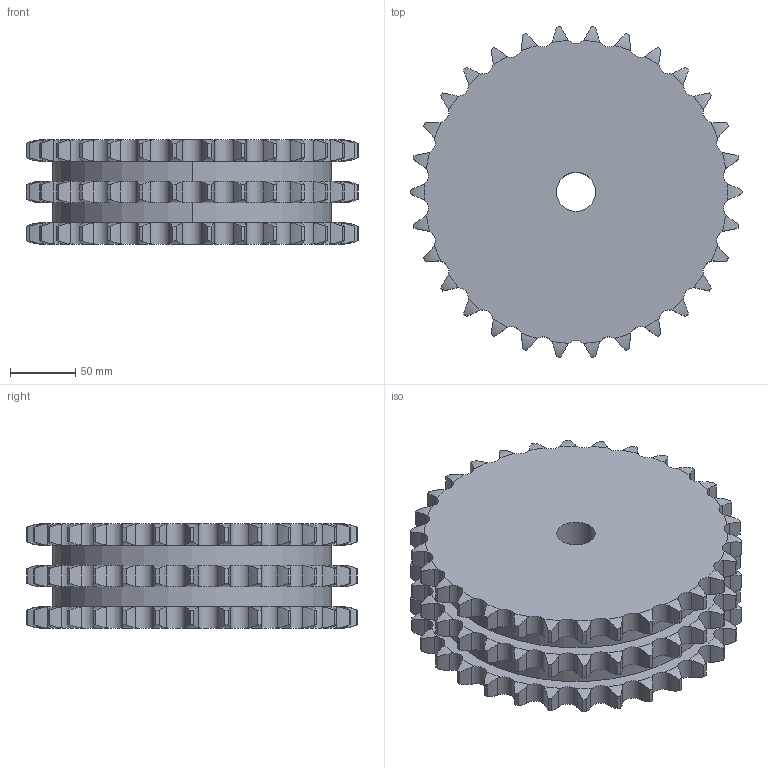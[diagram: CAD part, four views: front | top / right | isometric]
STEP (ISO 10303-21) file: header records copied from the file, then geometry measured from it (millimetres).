
FILE_DESCRIPTION((''),'2;1');
FILE_NAME('500-503-0030_PRT','2021-02-12T',('Brieden'),('Brieden'),'PRO/ENGINEER BY PARAMETRIC TECHNOLOGY CORPORATION, 2010160','PRO/ENGINEER BY PARAMETRIC TECHNOLOGY CORPORATION, 2010160','');
FILE_SCHEMA(('AUTOMOTIVE_DESIGN { 1 0 10303 214 1 1 1 1 }'));
Length unit declared in the file: millimetre
Products named in the file (1): 500-503-0030_PRT
Bounding box: 253.87 x 252.75 x 79.6 mm (x, y, z)
Volume: 3188091.8 mm3; surface area: 203153.7 mm2
Topology: 1 solids, 1 shells, 552 faces, 1638 edges, 1092 vertices
Faces by surface type: cylinder 366, torus 180, plane 6
Entity records: 26858 total; most frequent: CARTESIAN_POINT 7961, ORIENTED_EDGE 3276, DIRECTION 2574, PRESENTATION_STYLE_ASSIGNMENT 1639, STYLED_ITEM 1639, CURVE_STYLE 1638, EDGE_CURVE 1638, AXIS2_PLACEMENT_3D 1104
